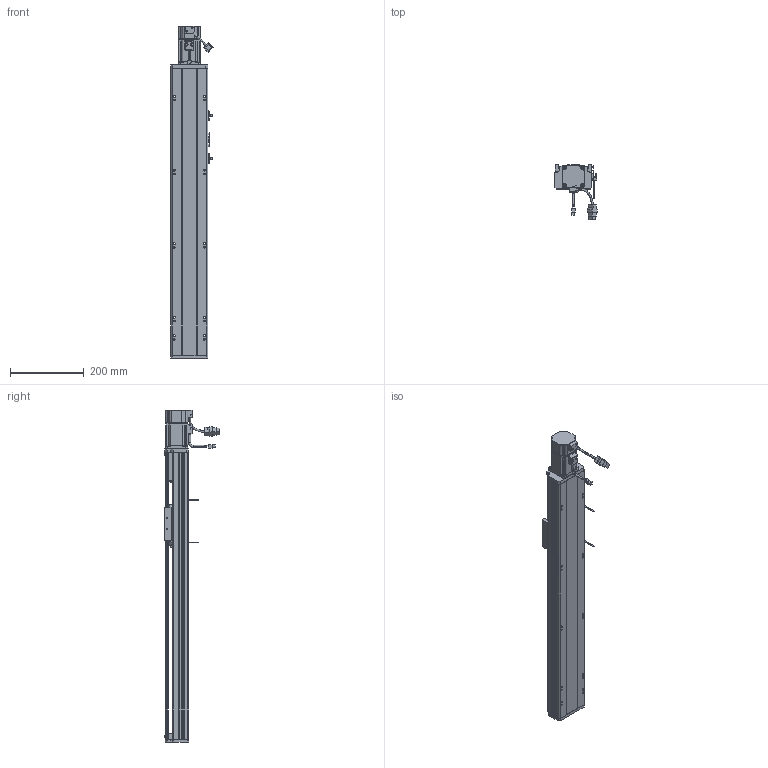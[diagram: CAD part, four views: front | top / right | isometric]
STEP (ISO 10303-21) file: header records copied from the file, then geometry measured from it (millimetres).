
FILE_DESCRIPTION (( 'STEP AP214' ), '1' );
FILE_NAME ('CTH10-550.STEP', '2019-11-18T08:02:57', ( '微软用户' ), ( '微软中国' ), 'SwSTEP 2.0', 'SolidWorks 2017', '' );
FILE_SCHEMA (( 'AUTOMOTIVE_DESIGN' ));
Length unit declared in the file: millimetre
Products named in the file (34): CTH10-550; CTH10-底座_默认<按加工>; CTH10-移动座_默认<按加工>; CTH10-蹟簽蟀諉啣; CTH10-盓傅釱; CTH10-傷啣; CTH10-侜督萇儂啣; SFH1605-288; SFH1605; CTH10-盖板_默认<按加工>; 怢湛200W侜督萇儂ECMA-CX0602ES; CTH10-粣創釱; BEARING_BaseModel20190604090351; 7001-DF; 粣創揤啣; COL12B-粣遠; 坶踡蹟譫; M4-L8囀鞠褒蹟佪; M3-L10囀鞠褒蹟佪; CTH10粣創釱蚾饜极; M5-L20囀鞠褒蹟佪; 遣喳蝶15x12x8; 6000Z粣創; M4-L6半圆头内六角螺丝; EE-SX672; M3-L8囀鞠褒蹟佪; 100耀郪-覜茼んえ; MGN12C; MGN12C-R1; MGN12C-2R420-Z0CHC; 噩砃M3-L10囀鞠褒蹟佪; 噩砃MGN12C; 噩砃MGN12C-R1; 噩砃MGN12C-2R420-Z0CHC
Assembly tree (100 placements, depth 4):
  CTH10-550
    CTH10-底座_默认<按加工>
    CTH10-移动座_默认<按加工>
    CTH10-蹟簽蟀諉啣
    CTH10-盓傅釱
    CTH10-傷啣
    CTH10-侜督萇儂啣
    SFH1605-288
    SFH1605
    CTH10-盖板_默认<按加工>
    怢湛200W侜督萇儂ECMA-CX0602ES
    CTH10粣創釱蚾饜极
      CTH10-粣創釱
      7001-DF
        BEARING_BaseModel20190604090351  x2
      粣創揤啣
      COL12B-粣遠  x2
      坶踡蹟譫
      M4-L8囀鞠褒蹟佪  x4
      M3-L10囀鞠褒蹟佪  x6
    M3-L10囀鞠褒蹟佪  x19
    M5-L20囀鞠褒蹟佪  x4
    遣喳蝶15x12x8  x3
    6000Z粣創
    M4-L6半圆头内六角螺丝  x4
    M4-L8囀鞠褒蹟佪  x8
    EE-SX672  x2
    M3-L8囀鞠褒蹟佪  x4
    100耀郪-覜茼んえ
    MGN12C-2R420-Z0CHC
      MGN12C
      MGN12C-R1  x2
      M3-L10囀鞠褒蹟佪  x8
    噩砃M3-L10囀鞠褒蹟佪
    噩砃MGN12C-2R420-Z0CHC
      噩砃MGN12C
      噩砃MGN12C-R1  x2
      噩砃M3-L10囀鞠褒蹟佪  x8
Bounding box: 114.24 x 151.37 x 902 mm (x, y, z)
Volume: 2381492.8 mm3; surface area: 872498 mm2
Topology: 96 solids, 105 shells, 4573 faces, 11522 edges, 7182 vertices
Faces by surface type: plane 2318, cylinder 1368, cone 601, bspline 241, torus 33, sphere 12
Entity records: 95538 total; most frequent: CARTESIAN_POINT 29122, ORIENTED_EDGE 13548, DIRECTION 12925, EDGE_CURVE 6774, AXIS2_PLACEMENT_3D 4586, VERTEX_POINT 4396, VECTOR 3753, LINE 3753
